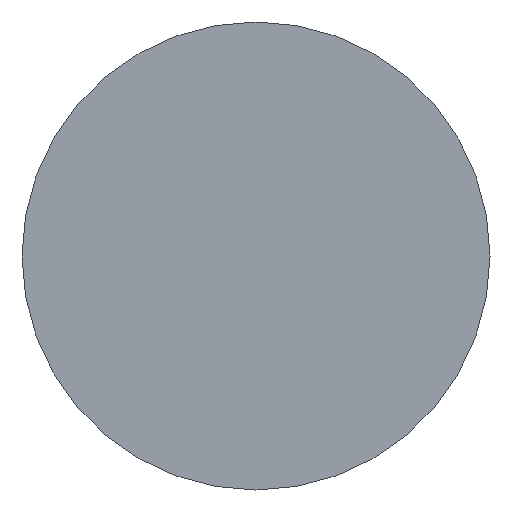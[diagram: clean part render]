
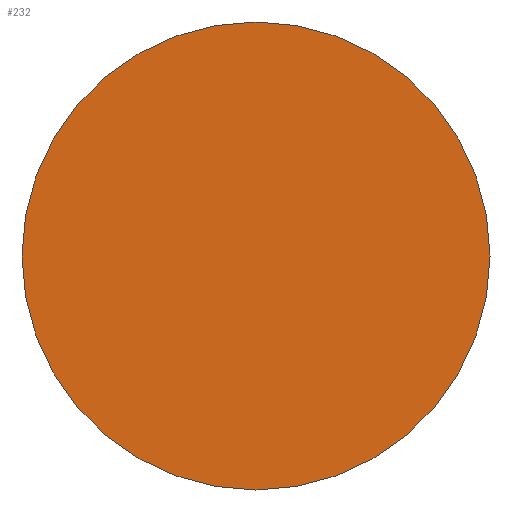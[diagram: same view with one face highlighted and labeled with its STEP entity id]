
A CAD part, front view. The second image highlights one B-rep face of the part: STEP entity #232.
In plain terms, the highlighted planar face has unit normal (0, -1, 0).
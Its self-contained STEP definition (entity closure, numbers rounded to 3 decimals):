
#232 = ADVANCED_FACE ( 'NONE', ( #2093 ), #537, .T. ) ;
#341 = CIRCLE ( 'NONE', #3985, 27.5 ) ;
#516 = ORIENTED_EDGE ( 'NONE', *, *, #3012, .T. ) ;
#537 = PLANE ( 'NONE',  #2164 ) ;
#915 = CARTESIAN_POINT ( 'NONE',  ( 27.5, -24., 0. ) ) ;
#916 = AXIS2_PLACEMENT_3D ( 'NONE', #1840, #2776, #1245 ) ;
#939 = CARTESIAN_POINT ( 'NONE',  ( -27.5, -24., 0. ) ) ;
#1245 = DIRECTION ( 'NONE',  ( 1., 0., 0. ) ) ;
#1315 = VERTEX_POINT ( 'NONE', #939 ) ;
#1632 = DIRECTION ( 'NONE',  ( 0., -1., 0. ) ) ;
#1810 = CARTESIAN_POINT ( 'NONE',  ( 27.5, -24., 0. ) ) ;
#1834 = CIRCLE ( 'NONE', #916, 27.5 ) ;
#1840 = CARTESIAN_POINT ( 'NONE',  ( 0., -24., 0. ) ) ;
#1975 = DIRECTION ( 'NONE',  ( 1., 0., 0. ) ) ;
#2093 = FACE_OUTER_BOUND ( 'NONE', #3697, .T. ) ;
#2097 = VERTEX_POINT ( 'NONE', #915 ) ;
#2164 = AXIS2_PLACEMENT_3D ( 'NONE', #1810, #3982, #3089 ) ;
#2367 = CARTESIAN_POINT ( 'NONE',  ( 0., -24., 0. ) ) ;
#2776 = DIRECTION ( 'NONE',  ( 0., -1., 0. ) ) ;
#3012 = EDGE_CURVE ( 'NONE', #2097, #1315, #341, .T. ) ;
#3089 = DIRECTION ( 'NONE',  ( 1., 0., 0. ) ) ;
#3554 = ORIENTED_EDGE ( 'NONE', *, *, #3688, .T. ) ;
#3688 = EDGE_CURVE ( 'NONE', #1315, #2097, #1834, .T. ) ;
#3697 = EDGE_LOOP ( 'NONE', ( #516, #3554 ) ) ;
#3982 = DIRECTION ( 'NONE',  ( 0., -1., 0. ) ) ;
#3985 = AXIS2_PLACEMENT_3D ( 'NONE', #2367, #1632, #1975 ) ;
